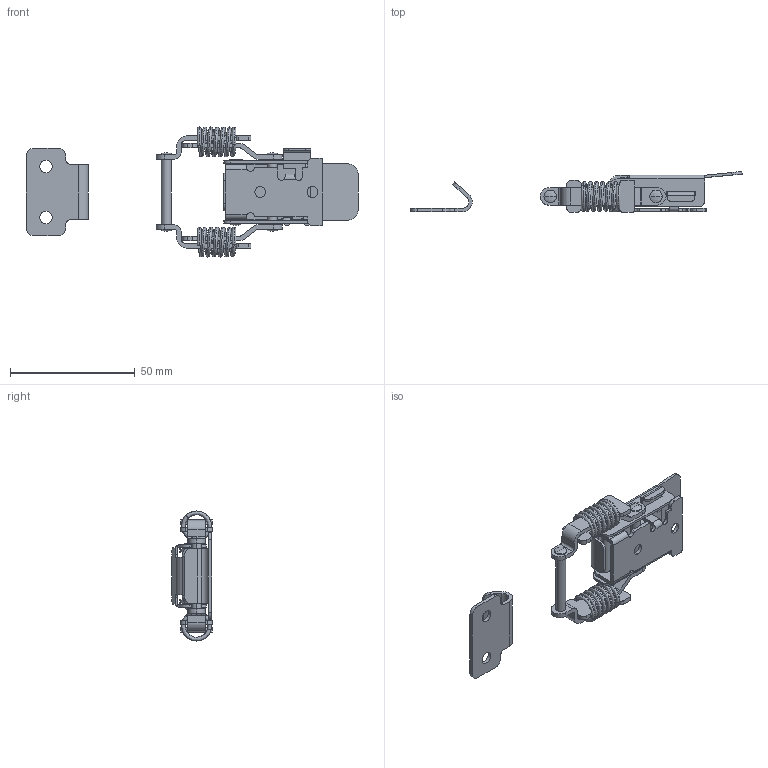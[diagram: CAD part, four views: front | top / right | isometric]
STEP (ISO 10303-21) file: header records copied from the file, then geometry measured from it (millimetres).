
FILE_DESCRIPTION (( 'STEP AP203' ), '1' );
FILE_NAME ('SK3-042.STEP', '2018-11-01T08:54:41', ( 'admin' ), ( 'Microsoft' ), 'SwSTEP 2.0', 'SolidWorks 2015', '' );
FILE_SCHEMA (( 'CONFIG_CONTROL_DESIGN' ));
Length unit declared in the file: millimetre
Products named in the file (11): SK3-042 种隊1; SK3-042 种隊2; SK3-042 蜇璃3; SK3-042 菁釱; SK3-042 粟銅 湮; SK3-042 參忒; SK3-042; SK3-042 粟銅; SK3-042 蜇璃 1; SK3-042 蜇璃 2; SK3-042 ͷ
Assembly tree (15 placements, depth 2):
  SK3-042
    SK3-042 菁釱
    SK3-042 參忒
    SK3-042 粟銅  x2
    SK3-042 蜇璃 1
    SK3-042 蜇璃 2  x2
    SK3-042 ͷ
    SK3-042 种隊1  x2
    SK3-042 种隊2
    SK3-042 蜇璃3  x2
    SK3-042 粟銅 湮  x2
Bounding box: 133.3 x 16.4 x 52.2 mm (x, y, z)
Volume: 9282.4 mm3; surface area: 16558.6 mm2
Topology: 15 solids, 15 shells, 366 faces, 957 edges, 627 vertices
Faces by surface type: cylinder 165, plane 165, bspline 24, sphere 10, torus 2
Entity records: 17890 total; most frequent: CARTESIAN_POINT 9256, DIRECTION 1575, ORIENTED_EDGE 1524, EDGE_CURVE 762, AXIS2_PLACEMENT_3D 562, VERTEX_POINT 501, VECTOR 451, LINE 451
